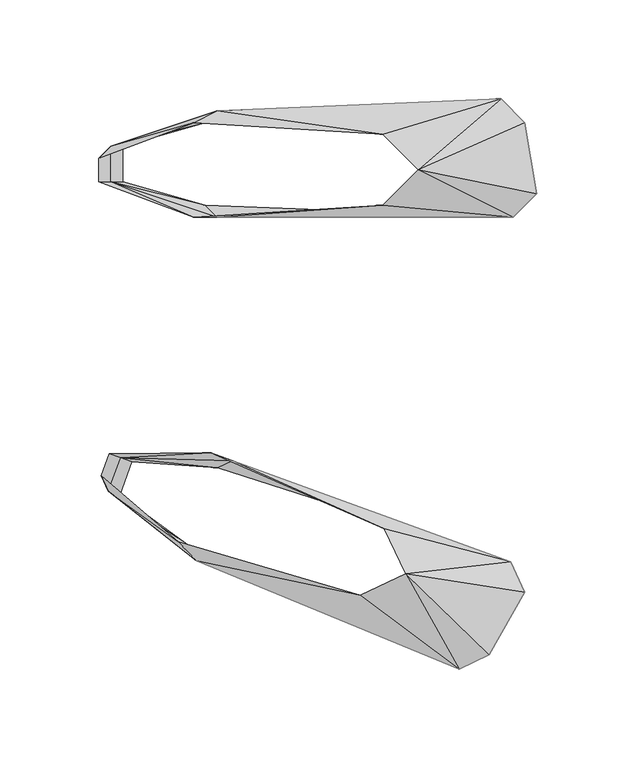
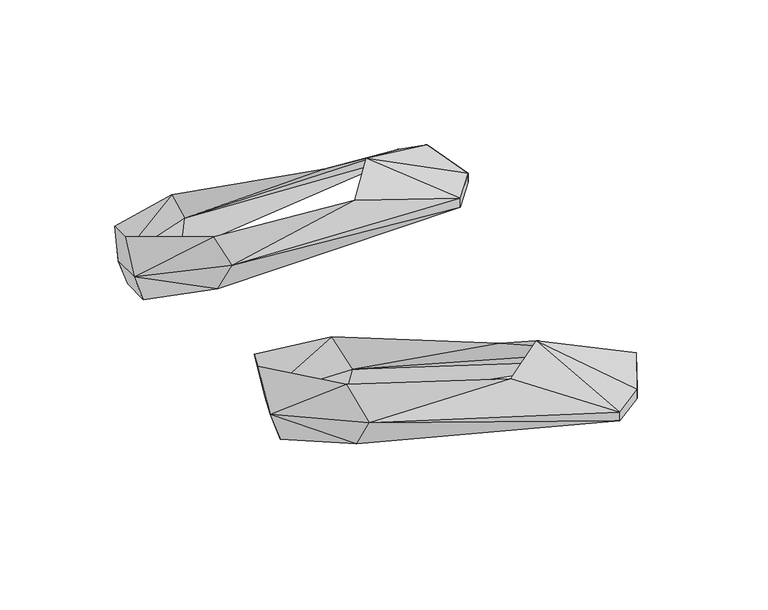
"""IFC4 building model written with IfcOpenShell, lengths in millimetres: geographic element geometry, Woman05[1] : Woman05[1]."""

from ifc_helpers import new_model, si_unit, origin, place, context, project, spatial, triangles, source, transform, mapped, element, save


def geographic_element_c4ab7724(model_context):
    return source(origin(), model_context, "Body", "Tessellation", [
        triangles([(322.9369743, 167.3411847, 11.9529325), (322.9369743, 167.3411847, 5.9764629), (334.8899148, 179.2941251, 11.9529325), (334.8899148, 179.2941251, 17.9294027), (173.5252549, 167.3411847, 17.929405), (167.5487846, 173.3176367, -7.9e-06), (328.9134627, 215.1529465, 11.9529302), (328.9134627, 215.1529465, 17.9294005), (316.9604859, 227.105887, 5.9764577), (316.9604859, 227.105887, 11.952928), (167.5487846, 215.1529465, -1.15e-05), (173.5252549, 221.1293986, 17.9294005), (119.7369774, 185.2705772, 17.9294027), (119.7369774, 203.2000061, 17.9294016), (125.7134476, 203.2000061, -1.05e-05), (125.7134476, 185.2705772, -8.9e-06), (113.760498, 185.2705772, 47.8117573), (113.760498, 197.2235177, 47.8117573), (275.125267, 191.2470474, 41.8352871), (257.1958381, 173.3176367, 29.8823443), (161.5723144, 167.3411847, 41.8352871), (161.5723144, 215.1529465, 41.8352825), (257.1958381, 209.1764763, 29.8823421), (321.7421708, -6.7758417, 5.9764782), (321.7421708, -6.7758406, 11.9529484), (328.8861388, -22.096085, 11.9529495), (328.8861388, -22.0960827, 17.9294209), (181.3410569, 44.3259872, 17.9294152), (173.6809685, 40.7540122, 3.7e-06), (311.0056169, -53.7482681, 17.9294243), (311.0056169, -53.7482681, 11.952953), (295.6854401, -60.8922361, 11.9529541), (295.6854401, -60.8922361, 5.9764827), (162.9444145, -6.2184193, 17.9294198), (159.3724487, 1.4416977, 7.1e-06), (118.5321999, 29.0263782, 17.9294164), (124.6644836, 45.8745118, 17.9294152), (124.1482361, 26.9822943, 4.9e-06), (130.2805198, 43.8304324, 3.4e-06), (114.960234, 36.6864984, 47.8117664), (119.0484474, 47.9185913, 47.8117664), (268.6375816, -12.8874322, 41.8353052), (257.9216659, 10.0929171, 29.8823602), (170.1090026, 48.414137, 41.8352962), (153.7564034, 3.4857747, 41.8353007), (245.6571892, -23.6033558, 29.8823625)], [[1, 2, 3], [3, 4, 1], [2, 1, 5], [2, 5, 6], [7, 8, 3], [4, 3, 8], [9, 10, 8], [8, 7, 9], [11, 12, 9], [9, 12, 10], [13, 14, 15], [15, 16, 13], [17, 18, 13], [14, 13, 18], [19, 4, 8], [19, 20, 1], [19, 1, 4], [1, 20, 5], [5, 20, 21], [21, 17, 13], [21, 13, 5], [5, 13, 6], [6, 13, 16], [14, 12, 11], [14, 11, 15], [18, 22, 14], [14, 22, 12], [23, 10, 12], [23, 12, 22], [23, 19, 10], [10, 19, 8], [24, 25, 26], [27, 26, 25], [25, 24, 28], [28, 24, 29], [30, 31, 26], [26, 27, 30], [32, 33, 30], [31, 30, 33], [34, 35, 33], [34, 33, 32], [36, 37, 38], [39, 38, 37], [40, 41, 37], [37, 36, 40], [27, 42, 30], [43, 42, 25], [25, 42, 27], [43, 25, 28], [43, 28, 44], [41, 44, 37], [37, 44, 28], [37, 28, 29], [37, 29, 39], [34, 36, 35], [35, 36, 38], [45, 40, 36], [45, 36, 34], [32, 46, 34], [34, 46, 45], [42, 46, 32], [42, 32, 30]], closed=False),
    ])


if __name__ == "__main__":
    model = new_model("IFC4")
    model_context = context("Model", 3, world=origin())
    ifc_project = project(units=[si_unit("LENGTHUNIT", "METRE", prefix="MILLI")], contexts=[model_context])
    site = spatial("IfcSite", under=ifc_project)
    building = spatial("IfcBuilding", under=site)
    placement = place(None, origin())
    geographic_element_shape = geographic_element_c4ab7724(model_context)
    element("IfcGeographicElement", 1, ObjectType="Woman05[1] : Woman05[1]", at=placement, inside=building, context=model_context, shape_type="MappedRepresentation", body=[
        mapped(geographic_element_shape, transform((0.0, 0.0, 0.0), x_axis=(1.0, 0.0, 0.0), y_axis=(0.0, 1.0, 0.0), z_axis=(0.0, 0.0, 1.0))),
    ])
    save(model, "model.ifc")
